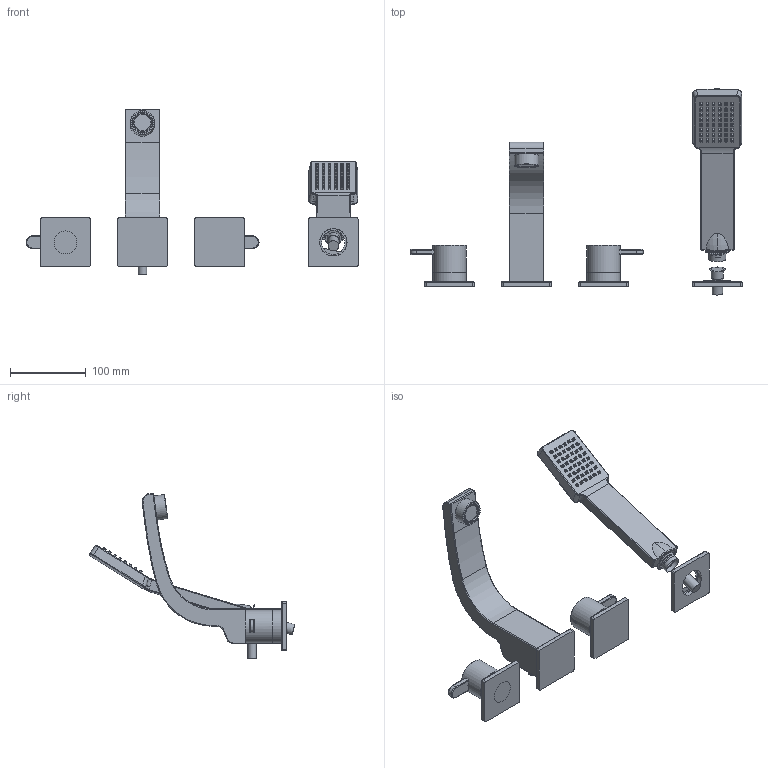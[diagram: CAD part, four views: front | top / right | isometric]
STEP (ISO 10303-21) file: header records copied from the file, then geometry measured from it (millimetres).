
FILE_DESCRIPTION(/* description */ (''),/* implementation_level */ '2;1');
FILE_NAME(/* name */ 'c:\worker\convert-fusion-r08\tmp\job-1\8\output\files\ef100249-0cf0-4911-abbd-6b365d789a3a\39744b69-62a5-4883-b442-18765c5bbe36.stp',/* time_stamp */ '2019-11-26T14:52:12+00:00',/* author */ (''),/* organization */ (''),/* preprocessor_version */ 'ST-DEVELOPER v18',/* originating_system */ 'Autodesk Translation Framework v8.12.0.6',/* authorisation */ '');
FILE_SCHEMA (('AUTOMOTIVE_DESIGN { 1 0 10303 214 3 1 1 }'));
Products named in the file (1): !DA5032
Bounding box: 437.7 x 271.52 x 218.68 mm (x, y, z)
Volume: 831656.5 mm3; surface area: 171233.6 mm2
Topology: 19 solids, 19 shells, 1246 faces, 2897 edges, 1604 vertices
Faces by surface type: cylinder 553, plane 394, sphere 198, bspline 61, torus 27, cone 13
Full cylindrical faces by diameter (mm): 1.8 x48, 8 x1, 11 x1, 14 x1, 14.2 x1, 16 x1, 16.938 x3, 19.791 x4, 22.6 x1, 22.8 x1, 24.2 x1, 27 x1, 28.2 x1, 30 x1, 30.8 x1, 32 x1, 35.768 x1, 36 x1, 39 x1, 41 x1, 44 x4
Entity records: 57775 total; most frequent: CARTESIAN_POINT 30111, DIRECTION 6256, ORIENTED_EDGE 5398, EDGE_CURVE 2699, AXIS2_PLACEMENT_3D 2485, VERTEX_POINT 1604, EDGE_LOOP 1365, LINE 1286
